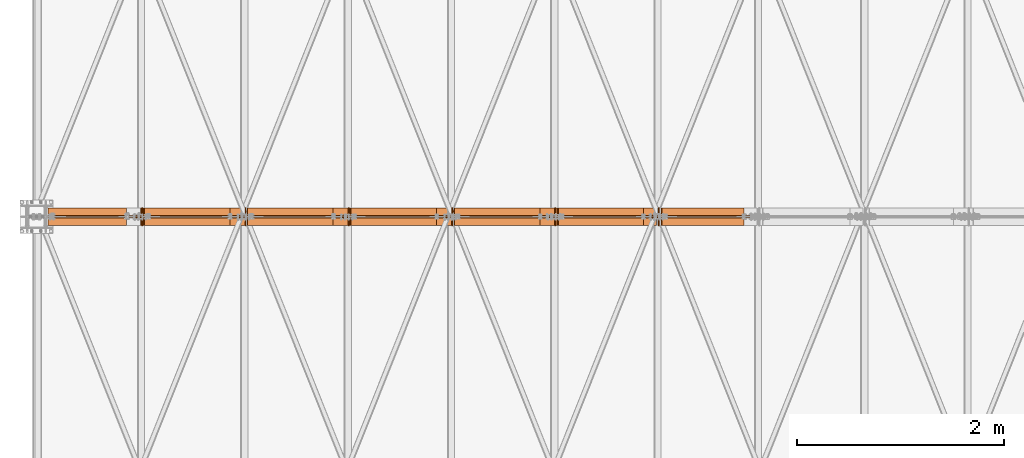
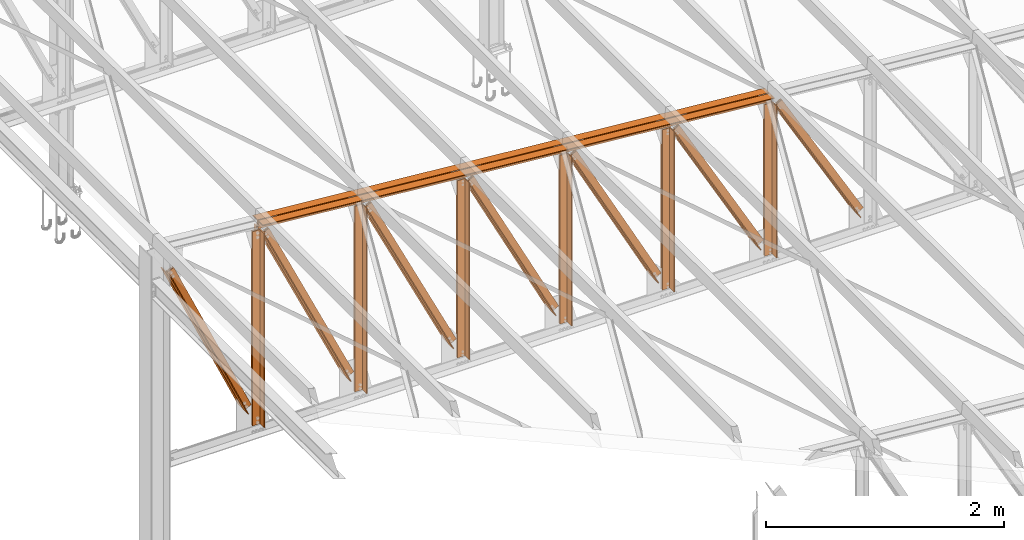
# One storey, part 237 of 251: 28 proxies.
"""IFC4 building model written with IfcOpenShell, lengths in metres."""

from ifc_helpers import new_model, si_unit, frame, origin_with_axes, origin_2d_with_axis, place, context, project, spatial, polyline, i_section, outline, extrude, material, material_profile, profile_set, profile_usage, type_object, element, save


model = new_model("IFC4")

# Units and contexts
model_context = context("Model", 3, precision=1e-05, world=origin_with_axes())
ifc_project = project(units=[si_unit("LENGTHUNIT", "METRE"), si_unit("AREAUNIT", "SQUARE_METRE"), si_unit("VOLUMEUNIT", "CUBIC_METRE"), si_unit("MASSUNIT", "GRAM", prefix="KILO"), si_unit("TIMEUNIT", "SECOND"), si_unit("PLANEANGLEUNIT", "RADIAN"), si_unit("SOLIDANGLEUNIT", "STERADIAN"), si_unit("THERMODYNAMICTEMPERATUREUNIT", "DEGREE_CELSIUS")], contexts=[model_context])

# Site, building, storey
placement_1 = place(None, origin_with_axes())
site = spatial("IfcSite", under=ifc_project, at=placement_1, Name="Italia", CompositionType="ELEMENT")
building = spatial("IfcBuilding", under=site, at=placement_1, Name="Deposito", CompositionType="ELEMENT")
storey = spatial("IfcBuildingStorey", under=building, at=placement_1, Name="Storey 0", CompositionType="ELEMENT", Elevation=0.0)

# Proxies
ifc_material = material(Name="Acciaio", Category="Acciaio")
ifc_material_profile = material_profile(ifc_material, i_section(OverallWidth=0.2, OverallDepth=0.19, WebThickness=0.006, FlangeThickness=0.01, FilletRadius=0.018, at=origin_2d_with_axis()), Name="7 PILASTRO HEA200")
ifc_profile_set = profile_set([ifc_material_profile])
ifc_profile_usage_1 = profile_usage(ifc_profile_set, cardinal=1)
member_type_1 = type_object("IfcMemberType", Name="5 2L80x8", PredefinedType="MEMBER", material=ifc_profile_usage_1)
placement_2 = place(placement_1, origin_with_axes())
proxy_1_placement = place(placement_2, origin_with_axes())
element("IfcBuildingElementProxy", 1, at=proxy_1_placement, inside=storey, type_object=member_type_1, Name="170003", context=model_context, shape_type="SweptSolid", body=[
    extrude(outline(polyline([(0.0, 0.0), (-0.0799999, 0.0), (-0.0799999, 0.00800037), (-0.00799942, 0.00800037), (-0.00799942, 0.0799999), (0.0, 0.0799999), (0.0, 0.0)])), frame((12.0716, 9.995, 6.57981), z_axis=(0.496024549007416, 0.0, -0.868308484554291), x_axis=(0.0, 1.0, 0.0)), (0.0, 0.0, 1.0), 1.5955),
])
ifc_profile_usage_2 = profile_usage(ifc_profile_set, cardinal=1)
member_type_2 = type_object("IfcMemberType", Name="5 2L80x8", PredefinedType="MEMBER", material=ifc_profile_usage_2)
proxy_2_placement = place(placement_2, origin_with_axes())
element("IfcBuildingElementProxy", 2, at=proxy_2_placement, inside=storey, type_object=member_type_2, Name="170003", context=model_context, shape_type="SweptSolid", body=[
    extrude(outline(polyline([(0.0, 0.0), (0.00799942, 0.0), (0.00799942, -0.0719986), (0.0799999, -0.0719986), (0.0799999, -0.079999), (0.0, -0.079999), (0.0, 0.0)])), frame((12.1411, 10.005, 6.6195), z_axis=(0.496024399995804, 0.0, -0.868308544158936), x_axis=(0.0, 1.0, 0.0)), (0.0, 0.0, 1.0), 1.59551),
])
ifc_profile_usage_3 = profile_usage(ifc_profile_set, cardinal=2)
member_type_3 = type_object("IfcMemberType", Name="5 2L80x8", PredefinedType="MEMBER", material=ifc_profile_usage_3)
proxy_3_placement = place(placement_2, origin_with_axes())
element("IfcBuildingElementProxy", 3, at=proxy_3_placement, inside=storey, type_object=member_type_3, Name="230073", context=model_context, shape_type="SweptSolid", body=[
    extrude(outline(polyline([(0.0, 0.0), (0.0799999, 0.0), (0.0799999, -0.00800085), (0.00799942, -0.00800085), (0.00799942, -0.0799999), (0.0, -0.0799999), (0.0, 0.0)])), frame((7.05143, 10.005, 7.15546), z_axis=(0.996194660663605, 0.0, -0.087155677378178), x_axis=(0.0, 1.0, 0.0)), (0.0, 0.0, 1.0), 4.99498),
])
ifc_profile_usage_4 = profile_usage(ifc_profile_set, cardinal=2)
member_type_4 = type_object("IfcMemberType", Name="5 2L80x8", PredefinedType="MEMBER", material=ifc_profile_usage_4)
proxy_4_placement = place(placement_2, origin_with_axes())
element("IfcBuildingElementProxy", 4, at=proxy_4_placement, inside=storey, type_object=member_type_4, Name="230073", context=model_context, shape_type="SweptSolid", body=[
    extrude(outline(polyline([(0.0, 0.0), (-0.00799942, 0.0), (-0.00799942, 0.0719991), (-0.0799999, 0.0719991), (-0.0799999, 0.0799994), (0.0, 0.0799994), (0.0, 0.0)])), frame((7.04446, 9.995, 7.07576), z_axis=(0.99619472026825, 0.0, -0.087155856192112), x_axis=(0.0, 1.0, 0.0)), (0.0, 0.0, 1.0), 4.99498),
])
ifc_profile_usage_5 = profile_usage(ifc_profile_set, cardinal=1)
member_type_5 = type_object("IfcMemberType", Name="5 2L80x8", PredefinedType="MEMBER", material=ifc_profile_usage_5)
proxy_5_placement = place(placement_2, origin_with_axes())
element("IfcBuildingElementProxy", 5, at=proxy_5_placement, inside=storey, type_object=member_type_5, Name="39", context=model_context, shape_type="SweptSolid", body=[
    extrude(outline(polyline([(0.0, 0.0), (-0.0799999, 0.0), (-0.0799999, 0.00800037), (-0.00799942, 0.00800037), (-0.00799942, 0.0799999), (0.0, 0.0799999), (0.0, 0.0)])), frame((12.053, 9.995, 5.06753), z_axis=(0.0, 0.0, 1.0), x_axis=(0.0, 1.0, 0.0)), (0.0, 0.0, 1.0), 1.55988),
])
ifc_profile_usage_6 = profile_usage(ifc_profile_set, cardinal=1)
member_type_6 = type_object("IfcMemberType", Name="5 2L80x8", PredefinedType="MEMBER", material=ifc_profile_usage_6)
proxy_6_placement = place(placement_2, origin_with_axes())
element("IfcBuildingElementProxy", 6, at=proxy_6_placement, inside=storey, type_object=member_type_6, Name="39", context=model_context, shape_type="SweptSolid", body=[
    extrude(outline(polyline([(0.0, 0.0), (0.00799942, 0.0), (0.00799942, -0.0719995), (0.0799999, -0.0719995), (0.0799999, -0.0799999), (0.0, -0.0799999), (0.0, 0.0)])), frame((11.973, 10.005, 5.06753), z_axis=(0.0, 0.0, 1.0), x_axis=(0.0, 1.0, 0.0)), (0.0, 0.0, 1.0), 1.55988),
])
ifc_profile_usage_7 = profile_usage(ifc_profile_set, cardinal=1)
member_type_7 = type_object("IfcMemberType", Name="5 2L80x8", PredefinedType="MEMBER", material=ifc_profile_usage_7)
proxy_7_placement = place(placement_2, origin_with_axes())
element("IfcBuildingElementProxy", 7, at=proxy_7_placement, inside=storey, type_object=member_type_7, Name="180003", context=model_context, shape_type="SweptSolid", body=[
    extrude(outline(polyline([(0.0, 0.0), (-0.0799999, 0.0), (-0.0799999, 0.00799942), (-0.00799942, 0.00799942), (-0.00799942, 0.0799999), (0.0, 0.0799999), (0.0, 0.0)])), frame((11.0734, 9.995, 6.66808), z_axis=(0.487459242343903, 0.0, -0.873145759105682), x_axis=(0.0, 1.0, 0.0)), (0.0, 0.0, 1.0), 1.68149),
])
ifc_profile_usage_8 = profile_usage(ifc_profile_set, cardinal=1)
member_type_8 = type_object("IfcMemberType", Name="5 2L80x8", PredefinedType="MEMBER", material=ifc_profile_usage_8)
proxy_8_placement = place(placement_2, origin_with_axes())
element("IfcBuildingElementProxy", 8, at=proxy_8_placement, inside=storey, type_object=member_type_8, Name="180003", context=model_context, shape_type="SweptSolid", body=[
    extrude(outline(polyline([(0.0, 0.0), (0.00799942, 0.0), (0.00799942, -0.0719986), (0.0799999, -0.0719986), (0.0799999, -0.079998), (0.0, -0.079998), (0.0, 0.0)])), frame((11.1433, 10.005, 6.70707), z_axis=(0.487459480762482, 0.0, -0.873145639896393), x_axis=(0.0, 1.0, 0.0)), (0.0, 0.0, 1.0), 1.68149),
])
ifc_profile_usage_9 = profile_usage(ifc_profile_set, cardinal=1)
member_type_9 = type_object("IfcMemberType", Name="5 2L80x8", PredefinedType="MEMBER", material=ifc_profile_usage_9)
proxy_9_placement = place(placement_2, origin_with_axes())
element("IfcBuildingElementProxy", 9, at=proxy_9_placement, inside=storey, type_object=member_type_9, Name="38", context=model_context, shape_type="SweptSolid", body=[
    extrude(outline(polyline([(0.0, 0.0), (-0.0799999, 0.0), (-0.0799999, 0.00800037), (-0.00799942, 0.00800037), (-0.00799942, 0.0799999), (0.0, 0.0799999), (0.0, 0.0)])), frame((11.0568, 9.995, 5.06753), z_axis=(0.0, 0.0, 1.0), x_axis=(0.0, 1.0, 0.0)), (0.0, 0.0, 1.0), 1.64711),
])
ifc_profile_usage_10 = profile_usage(ifc_profile_set, cardinal=1)
member_type_10 = type_object("IfcMemberType", Name="5 2L80x8", PredefinedType="MEMBER", material=ifc_profile_usage_10)
proxy_10_placement = place(placement_2, origin_with_axes())
element("IfcBuildingElementProxy", 10, at=proxy_10_placement, inside=storey, type_object=member_type_10, Name="38", context=model_context, shape_type="SweptSolid", body=[
    extrude(outline(polyline([(0.0, 0.0), (0.00799942, 0.0), (0.00799942, -0.0719995), (0.0799999, -0.0719995), (0.0799999, -0.0799999), (0.0, -0.0799999), (0.0, 0.0)])), frame((10.9768, 10.005, 5.06753), z_axis=(0.0, 0.0, 1.0), x_axis=(0.0, 1.0, 0.0)), (0.0, 0.0, 1.0), 1.64711),
])
ifc_profile_usage_11 = profile_usage(ifc_profile_set, cardinal=1)
member_type_11 = type_object("IfcMemberType", Name="5 2L80x8", PredefinedType="MEMBER", material=ifc_profile_usage_11)
proxy_11_placement = place(placement_2, origin_with_axes())
element("IfcBuildingElementProxy", 11, at=proxy_11_placement, inside=storey, type_object=member_type_11, Name="190003", context=model_context, shape_type="SweptSolid", body=[
    extrude(outline(polyline([(0.0, 0.0), (-0.0799999, 0.0), (-0.0799999, 0.00799942), (-0.00799942, 0.00799942), (-0.00799942, 0.0799999), (0.0, 0.0799999), (0.0, 0.0)])), frame((10.0736, 9.995, 6.75689), z_axis=(0.469864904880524, 0.0, -0.882738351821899), x_axis=(0.0, 1.0, 0.0)), (0.0, 0.0, 1.0), 1.75054),
])
ifc_profile_usage_12 = profile_usage(ifc_profile_set, cardinal=1)
member_type_12 = type_object("IfcMemberType", Name="5 2L80x8", PredefinedType="MEMBER", material=ifc_profile_usage_12)
proxy_12_placement = place(placement_2, origin_with_axes())
element("IfcBuildingElementProxy", 12, at=proxy_12_placement, inside=storey, type_object=member_type_12, Name="190003", context=model_context, shape_type="SweptSolid", body=[
    extrude(outline(polyline([(0.0, 0.0), (0.00799942, 0.0), (0.00799942, -0.0720005), (0.0799999, -0.0720005), (0.0799999, -0.0799999), (0.0, -0.0799999), (0.0, 0.0)])), frame((10.1442, 10.005, 6.79448), z_axis=(0.469864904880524, 0.0, -0.882738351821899), x_axis=(0.0, 1.0, 0.0)), (0.0, 0.0, 1.0), 1.75054),
])
ifc_profile_usage_13 = profile_usage(ifc_profile_set, cardinal=1)
member_type_13 = type_object("IfcMemberType", Name="5 2L80x8", PredefinedType="MEMBER", material=ifc_profile_usage_13)
proxy_13_placement = place(placement_2, origin_with_axes())
element("IfcBuildingElementProxy", 13, at=proxy_13_placement, inside=storey, type_object=member_type_13, Name="37", context=model_context, shape_type="SweptSolid", body=[
    extrude(outline(polyline([(0.0, 0.0), (-0.0799999, 0.0), (-0.0799999, 0.00800037), (-0.00799942, 0.00800037), (-0.00799942, 0.0799999), (0.0, 0.0799999), (0.0, 0.0)])), frame((10.0606, 9.995, 5.06753), z_axis=(0.0, 0.0, 1.0), x_axis=(0.0, 1.0, 0.0)), (0.0, 0.0, 1.0), 1.73426),
])
ifc_profile_usage_14 = profile_usage(ifc_profile_set, cardinal=1)
member_type_14 = type_object("IfcMemberType", Name="5 2L80x8", PredefinedType="MEMBER", material=ifc_profile_usage_14)
proxy_14_placement = place(placement_2, origin_with_axes())
element("IfcBuildingElementProxy", 14, at=proxy_14_placement, inside=storey, type_object=member_type_14, Name="37", context=model_context, shape_type="SweptSolid", body=[
    extrude(outline(polyline([(0.0, 0.0), (0.00799942, 0.0), (0.00799942, -0.0719995), (0.0799999, -0.0719995), (0.0799999, -0.0799999), (0.0, -0.0799999), (0.0, 0.0)])), frame((9.98057, 10.005, 5.06753), z_axis=(0.0, 0.0, 1.0), x_axis=(0.0, 1.0, 0.0)), (0.0, 0.0, 1.0), 1.73426),
])
ifc_profile_usage_15 = profile_usage(ifc_profile_set, cardinal=1)
member_type_15 = type_object("IfcMemberType", Name="5 2L80x8", PredefinedType="MEMBER", material=ifc_profile_usage_15)
proxy_15_placement = place(placement_2, origin_with_axes())
element("IfcBuildingElementProxy", 15, at=proxy_15_placement, inside=storey, type_object=member_type_15, Name="200003", context=model_context, shape_type="SweptSolid", body=[
    extrude(outline(polyline([(0.0, 0.0), (-0.0799999, 0.0), (-0.0799999, 0.00800133), (-0.00799942, 0.00800133), (-0.00799942, 0.0799999), (0.0, 0.0799999), (0.0, 0.0)])), frame((9.07443, 9.995, 6.84501), z_axis=(0.453332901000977, 0.0, -0.891341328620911), x_axis=(0.0, 1.0, 0.0)), (0.0, 0.0, 1.0), 1.81939),
])
ifc_profile_usage_16 = profile_usage(ifc_profile_set, cardinal=1)
member_type_16 = type_object("IfcMemberType", Name="5 2L80x8", PredefinedType="MEMBER", material=ifc_profile_usage_16)
proxy_16_placement = place(placement_2, origin_with_axes())
element("IfcBuildingElementProxy", 16, at=proxy_16_placement, inside=storey, type_object=member_type_16, Name="200003", context=model_context, shape_type="SweptSolid", body=[
    extrude(outline(polyline([(0.0, 0.0), (0.00799942, 0.0), (0.00799942, -0.0719986), (0.0799999, -0.0719986), (0.0799999, -0.079999), (0.0, -0.079999), (0.0, 0.0)])), frame((9.14573, 10.005, 6.88128), z_axis=(0.453332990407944, 0.0, -0.891341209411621), x_axis=(0.0, 1.0, 0.0)), (0.0, 0.0, 1.0), 1.81938),
])
ifc_profile_usage_17 = profile_usage(ifc_profile_set, cardinal=1)
member_type_17 = type_object("IfcMemberType", Name="5 2L80x8", PredefinedType="MEMBER", material=ifc_profile_usage_17)
proxy_17_placement = place(placement_2, origin_with_axes())
element("IfcBuildingElementProxy", 17, at=proxy_17_placement, inside=storey, type_object=member_type_17, Name="36", context=model_context, shape_type="SweptSolid", body=[
    extrude(outline(polyline([(0.0, 0.0), (-0.0799999, 0.0), (-0.0799999, 0.00800037), (-0.00799942, 0.00800037), (-0.00799942, 0.0799999), (0.0, 0.0799999), (0.0, 0.0)])), frame((9.06438, 9.995, 5.06753), z_axis=(0.0, 0.0, 1.0), x_axis=(0.0, 1.0, 0.0)), (0.0, 0.0, 1.0), 1.82142),
])
ifc_profile_usage_18 = profile_usage(ifc_profile_set, cardinal=1)
member_type_18 = type_object("IfcMemberType", Name="5 2L80x8", PredefinedType="MEMBER", material=ifc_profile_usage_18)
proxy_18_placement = place(placement_2, origin_with_axes())
element("IfcBuildingElementProxy", 18, at=proxy_18_placement, inside=storey, type_object=member_type_18, Name="36", context=model_context, shape_type="SweptSolid", body=[
    extrude(outline(polyline([(0.0, 0.0), (0.00799942, 0.0), (0.00799942, -0.0719995), (0.0799999, -0.0719995), (0.0799999, -0.0799999), (0.0, -0.0799999), (0.0, 0.0)])), frame((8.98438, 10.005, 5.06753), z_axis=(0.0, 0.0, 1.0), x_axis=(0.0, 1.0, 0.0)), (0.0, 0.0, 1.0), 1.82142),
])
ifc_profile_usage_19 = profile_usage(ifc_profile_set, cardinal=1)
member_type_19 = type_object("IfcMemberType", Name="5 2L80x8", PredefinedType="MEMBER", material=ifc_profile_usage_19)
proxy_19_placement = place(placement_2, origin_with_axes())
element("IfcBuildingElementProxy", 19, at=proxy_19_placement, inside=storey, type_object=member_type_19, Name="210003", context=model_context, shape_type="SweptSolid", body=[
    extrude(outline(polyline([(0.0, 0.0), (-0.0799999, 0.0), (-0.0799999, 0.00799942), (-0.00799942, 0.00799942), (-0.00799942, 0.0799999), (0.0, 0.0799999), (0.0, 0.0)])), frame((8.07823, 9.995, 6.92755), z_axis=(0.437787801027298, 0.0, -0.89907830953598), x_axis=(0.0, 1.0, 0.0)), (0.0, 0.0, 1.0), 1.88258),
])
ifc_profile_usage_20 = profile_usage(ifc_profile_set, cardinal=1)
member_type_20 = type_object("IfcMemberType", Name="5 2L80x8", PredefinedType="MEMBER", material=ifc_profile_usage_20)
proxy_20_placement = place(placement_2, origin_with_axes())
element("IfcBuildingElementProxy", 20, at=proxy_20_placement, inside=storey, type_object=member_type_20, Name="210003", context=model_context, shape_type="SweptSolid", body=[
    extrude(outline(polyline([(0.0, 0.0), (0.00799942, 0.0), (0.00799942, -0.0719995), (0.0799999, -0.0719995), (0.0799999, -0.0799999), (0.0, -0.0799999), (0.0, 0.0)])), frame((8.15016, 10.005, 6.96258), z_axis=(0.437788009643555, 0.0, -0.899078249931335), x_axis=(0.0, 1.0, 0.0)), (0.0, 0.0, 1.0), 1.88258),
])
ifc_profile_usage_21 = profile_usage(ifc_profile_set, cardinal=1)
member_type_21 = type_object("IfcMemberType", Name="5 2L80x8", PredefinedType="MEMBER", material=ifc_profile_usage_21)
proxy_21_placement = place(placement_2, origin_with_axes())
element("IfcBuildingElementProxy", 21, at=proxy_21_placement, inside=storey, type_object=member_type_21, Name="35", context=model_context, shape_type="SweptSolid", body=[
    extrude(outline(polyline([(0.0, 0.0), (-0.0799999, 0.0), (-0.0799999, 0.00800037), (-0.00799942, 0.00800037), (-0.00799942, 0.0800004), (0.0, 0.0800004), (0.0, 0.0)])), frame((8.06818, 9.995, 5.06753), z_axis=(0.0, 0.0, 1.0), x_axis=(0.0, 1.0, 0.0)), (0.0, 0.0, 1.0), 1.90857),
])
ifc_profile_usage_22 = profile_usage(ifc_profile_set, cardinal=1)
member_type_22 = type_object("IfcMemberType", Name="5 2L80x8", PredefinedType="MEMBER", material=ifc_profile_usage_22)
proxy_22_placement = place(placement_2, origin_with_axes())
element("IfcBuildingElementProxy", 22, at=proxy_22_placement, inside=storey, type_object=member_type_22, Name="35", context=model_context, shape_type="SweptSolid", body=[
    extrude(outline(polyline([(0.0, 0.0), (0.00799942, 0.0), (0.00799942, -0.072), (0.0799999, -0.072), (0.0799999, -0.0800004), (0.0, -0.0800004), (0.0, 0.0)])), frame((7.98818, 10.005, 5.06753), z_axis=(0.0, 0.0, 1.0), x_axis=(0.0, 1.0, 0.0)), (0.0, 0.0, 1.0), 1.90857),
])
ifc_profile_usage_23 = profile_usage(ifc_profile_set, cardinal=1)
member_type_23 = type_object("IfcMemberType", Name="5 2L80x8", PredefinedType="MEMBER", material=ifc_profile_usage_23)
proxy_23_placement = place(placement_2, origin_with_axes())
element("IfcBuildingElementProxy", 23, at=proxy_23_placement, inside=storey, type_object=member_type_23, Name="220003", context=model_context, shape_type="SweptSolid", body=[
    extrude(outline(polyline([(0.0, 0.0), (-0.0799999, 0.0), (-0.0799999, 0.00800037), (-0.00799942, 0.00800037), (-0.00799942, 0.0800009), (0.0, 0.0800009), (0.0, 0.0)])), frame((7.08204, 9.995, 7.01008), z_axis=(0.423158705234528, 0.0, -0.906055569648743), x_axis=(0.0, 1.0, 0.0)), (0.0, 0.0, 1.0), 1.94634),
])
ifc_profile_usage_24 = profile_usage(ifc_profile_set, cardinal=1)
member_type_24 = type_object("IfcMemberType", Name="5 2L80x8", PredefinedType="MEMBER", material=ifc_profile_usage_24)
proxy_24_placement = place(placement_2, origin_with_axes())
element("IfcBuildingElementProxy", 24, at=proxy_24_placement, inside=storey, type_object=member_type_24, Name="220003", context=model_context, shape_type="SweptSolid", body=[
    extrude(outline(polyline([(0.0, 0.0), (0.00799942, 0.0), (0.00799942, -0.0720005), (0.0799999, -0.0720005), (0.0799999, -0.0800009), (0.0, -0.0800009), (0.0, 0.0)])), frame((7.15452, 10.005, 7.04394), z_axis=(0.423158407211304, 0.0, -0.906055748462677), x_axis=(0.0, 1.0, 0.0)), (0.0, 0.0, 1.0), 1.94634),
])
ifc_profile_usage_25 = profile_usage(ifc_profile_set, cardinal=1)
member_type_25 = type_object("IfcMemberType", Name="5 2L80x8", PredefinedType="MEMBER", material=ifc_profile_usage_25)
proxy_25_placement = place(placement_2, origin_with_axes())
element("IfcBuildingElementProxy", 25, at=proxy_25_placement, inside=storey, type_object=member_type_25, Name="34", context=model_context, shape_type="SweptSolid", body=[
    extrude(outline(polyline([(0.0, 0.0), (-0.0799999, 0.0), (-0.0799999, 0.0079999), (-0.00799942, 0.0079999), (-0.00799942, 0.0799999), (0.0, 0.0799999), (0.0, 0.0)])), frame((7.07199, 9.995, 5.06753), z_axis=(0.0, 0.0, 1.0), x_axis=(0.0, 1.0, 0.0)), (0.0, 0.0, 1.0), 1.99573),
])
ifc_profile_usage_26 = profile_usage(ifc_profile_set, cardinal=1)
member_type_26 = type_object("IfcMemberType", Name="5 2L80x8", PredefinedType="MEMBER", material=ifc_profile_usage_26)
proxy_26_placement = place(placement_2, origin_with_axes())
element("IfcBuildingElementProxy", 26, at=proxy_26_placement, inside=storey, type_object=member_type_26, Name="34", context=model_context, shape_type="SweptSolid", body=[
    extrude(outline(polyline([(0.0, 0.0), (0.00799942, 0.0), (0.00799942, -0.072), (0.0799999, -0.072), (0.0799999, -0.0799999), (0.0, -0.0799999), (0.0, 0.0)])), frame((6.99199, 10.005, 5.06753), z_axis=(0.0, 0.0, 1.0), x_axis=(0.0, 1.0, 0.0)), (0.0, 0.0, 1.0), 1.99573),
])
ifc_profile_usage_27 = profile_usage(ifc_profile_set, cardinal=1)
member_type_27 = type_object("IfcMemberType", Name="5 2L80x8", PredefinedType="MEMBER", material=ifc_profile_usage_27)
proxy_27_placement = place(placement_2, origin_with_axes())
element("IfcBuildingElementProxy", 27, at=proxy_27_placement, inside=storey, type_object=member_type_27, Name="230003", context=model_context, shape_type="SweptSolid", body=[
    extrude(outline(polyline([(0.0, 0.0), (-0.0799999, 0.0), (-0.0799999, 0.00799942), (-0.00799942, 0.00799942), (-0.00799942, 0.079999), (0.0, 0.079999), (0.0, 0.0)])), frame((6.15505, 9.995, 6.93198), z_axis=(0.410496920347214, 0.0, -0.911861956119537), x_axis=(0.0, 1.0, 0.0)), (0.0, 0.0, 1.0), 1.83665),
])
ifc_profile_usage_28 = profile_usage(ifc_profile_set, cardinal=1)
member_type_28 = type_object("IfcMemberType", Name="5 2L80x8", PredefinedType="MEMBER", material=ifc_profile_usage_28)
proxy_28_placement = place(placement_2, origin_with_axes())
element("IfcBuildingElementProxy", 28, at=proxy_28_placement, inside=storey, type_object=member_type_28, Name="230003", context=model_context, shape_type="SweptSolid", body=[
    extrude(outline(polyline([(0.0, 0.0), (0.00799942, 0.0), (0.00799942, -0.0719995), (0.0799999, -0.0719995), (0.0799999, -0.0799999), (0.0, -0.0799999), (0.0, 0.0)])), frame((6.228, 10.005, 6.96482), z_axis=(0.410497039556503, 0.0, -0.911861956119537), x_axis=(0.0, 1.0, 0.0)), (0.0, 0.0, 1.0), 1.83665),
])

save(model, "model.ifc")
